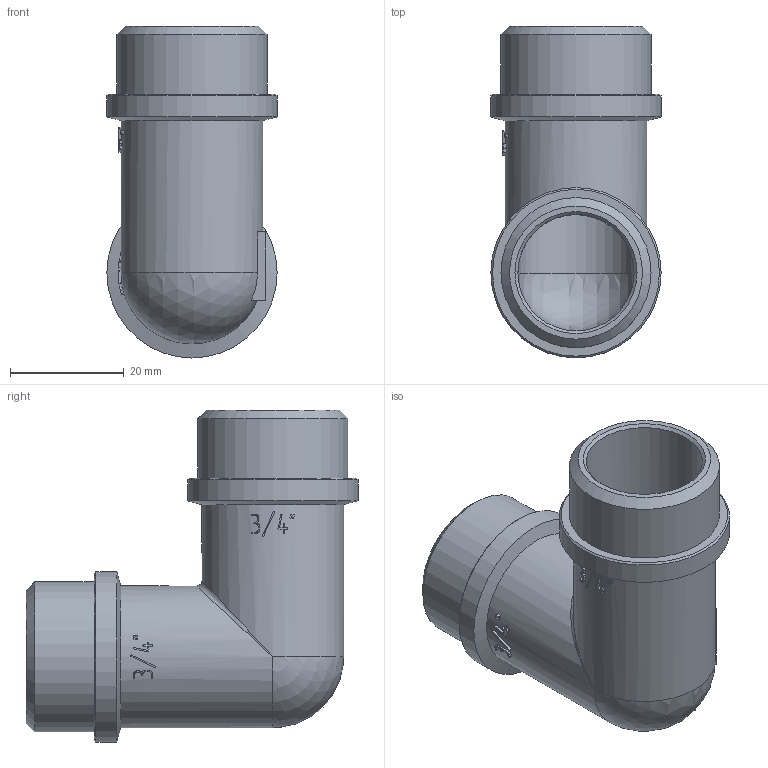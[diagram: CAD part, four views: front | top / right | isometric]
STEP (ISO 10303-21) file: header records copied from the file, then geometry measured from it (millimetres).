
FILE_DESCRIPTION(('STEP AP203'), '1');
FILE_NAME('ÂÐ.752212.002 - VTr.093.N.0005 - Ôèò. ðåçüá. óãîë', '2024-07-09T07:52:59', ('Boss'), (''), 'C3D Converter', 'C3D Toolkit', '');
FILE_SCHEMA(('CONFIG_CONTROL_DESIGN'));
Length unit declared in the file: millimetre
Products named in the file (1): ВР.752212.002
Bounding box: 30 x 58.5 x 58.5 mm (x, y, z)
Volume: 16905.4 mm3; surface area: 13444.6 mm2
Topology: 1 solids, 1 shells, 259 faces, 727 edges, 478 vertices
Faces by surface type: extrusion 138, plane 91, cylinder 19, cone 8, sphere 2, bspline 1
Full cylindrical faces by diameter (mm): 20.5 x2, 25 x2, 26.441 x2, 30 x2
Entity records: 11127 total; most frequent: CARTESIAN_POINT 5235, ORIENTED_EDGE 1410, DIRECTION 793, EDGE_CURVE 705, VERTEX_POINT 478, VECTOR 419, B_SPLINE_CURVE_WITH_KNOTS 418, EDGE_LOOP 291
